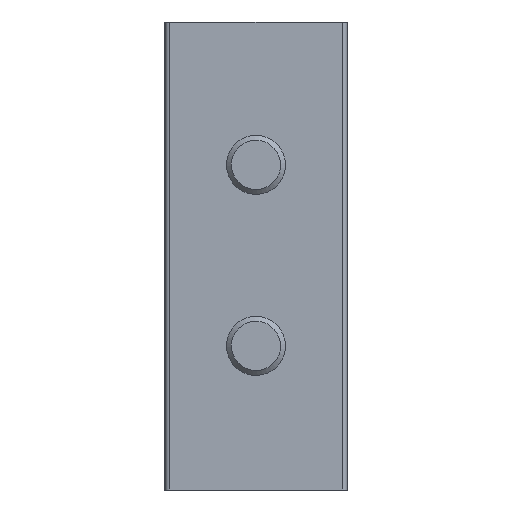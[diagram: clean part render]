
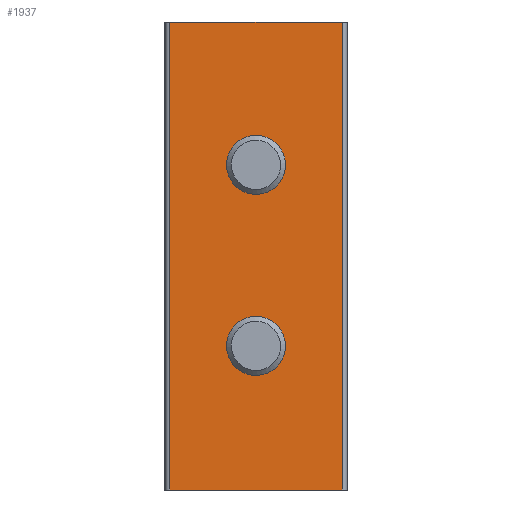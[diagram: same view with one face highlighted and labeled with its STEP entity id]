
A CAD part, front view. The second image highlights one B-rep face of the part: STEP entity #1937.
In plain terms, the highlighted planar face has unit normal (0, -1, 0).
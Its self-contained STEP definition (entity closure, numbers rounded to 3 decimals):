
#15 = CARTESIAN_POINT ( 'NONE',  ( 18.5, 0., 29.25 ) ) ;
#58 = ORIENTED_EDGE ( 'NONE', *, *, #1876, .T. ) ;
#66 = VERTEX_POINT ( 'NONE', #715 ) ;
#110 = DIRECTION ( 'NONE',  ( 1., 0., 0. ) ) ;
#130 = CARTESIAN_POINT ( 'NONE',  ( 37., 0., 0. ) ) ;
#175 = CIRCLE ( 'NONE', #1965, 5.053 ) ;
#183 = EDGE_CURVE ( 'NONE', #740, #66, #709, .T. ) ;
#198 = CARTESIAN_POINT ( 'NONE',  ( 36., 0., 95. ) ) ;
#199 = FACE_OUTER_BOUND ( 'NONE', #1941, .T. ) ;
#219 = CARTESIAN_POINT ( 'NONE',  ( 36., 0., 0. ) ) ;
#223 = VECTOR ( 'NONE', #110, 1000. ) ;
#294 = VECTOR ( 'NONE', #1706, 1000. ) ;
#297 = ORIENTED_EDGE ( 'NONE', *, *, #655, .T. ) ;
#310 = DIRECTION ( 'NONE',  ( 0., 0., 1. ) ) ;
#345 = ORIENTED_EDGE ( 'NONE', *, *, #1424, .T. ) ;
#366 = CARTESIAN_POINT ( 'NONE',  ( 1., 0., 0. ) ) ;
#379 = FACE_BOUND ( 'NONE', #1685, .T. ) ;
#386 = DIRECTION ( 'NONE',  ( 0., 0., -1. ) ) ;
#407 = FACE_BOUND ( 'NONE', #2018, .T. ) ;
#502 = CARTESIAN_POINT ( 'NONE',  ( 1., 0., 0. ) ) ;
#566 = VERTEX_POINT ( 'NONE', #366 ) ;
#635 = DIRECTION ( 'NONE',  ( 0., 1., 0. ) ) ;
#636 = CARTESIAN_POINT ( 'NONE',  ( 37., 0., 0. ) ) ;
#645 = DIRECTION ( 'NONE',  ( 0., 0., -1. ) ) ;
#655 = EDGE_CURVE ( 'NONE', #1236, #740, #973, .T. ) ;
#673 = LINE ( 'NONE', #502, #1326 ) ;
#709 = LINE ( 'NONE', #734, #294 ) ;
#715 = CARTESIAN_POINT ( 'NONE',  ( 1., 0., 95. ) ) ;
#734 = CARTESIAN_POINT ( 'NONE',  ( 37., 0., 95. ) ) ;
#740 = VERTEX_POINT ( 'NONE', #198 ) ;
#758 = ORIENTED_EDGE ( 'NONE', *, *, #1055, .T. ) ;
#830 = PLANE ( 'NONE',  #1700 ) ;
#895 = CARTESIAN_POINT ( 'NONE',  ( 18.5, 0., 66. ) ) ;
#951 = LINE ( 'NONE', #130, #223 ) ;
#973 = LINE ( 'NONE', #219, #1879 ) ;
#1020 = VERTEX_POINT ( 'NONE', #1498 ) ;
#1050 = CIRCLE ( 'NONE', #1741, 5.053 ) ;
#1055 = EDGE_CURVE ( 'NONE', #566, #1236, #951, .T. ) ;
#1069 = VERTEX_POINT ( 'NONE', #1174 ) ;
#1174 = CARTESIAN_POINT ( 'NONE',  ( 18.5, 0., 71.053 ) ) ;
#1230 = EDGE_CURVE ( 'NONE', #1020, #1020, #1050, .T. ) ;
#1236 = VERTEX_POINT ( 'NONE', #1578 ) ;
#1326 = VECTOR ( 'NONE', #645, 1000. ) ;
#1424 = EDGE_CURVE ( 'NONE', #66, #566, #673, .T. ) ;
#1498 = CARTESIAN_POINT ( 'NONE',  ( 18.5, 0., 34.303 ) ) ;
#1547 = DIRECTION ( 'NONE',  ( 0., 0., 1. ) ) ;
#1578 = CARTESIAN_POINT ( 'NONE',  ( 36., 0., 0. ) ) ;
#1685 = EDGE_LOOP ( 'NONE', ( #58 ) ) ;
#1700 = AXIS2_PLACEMENT_3D ( 'NONE', #636, #1919, #386 ) ;
#1706 = DIRECTION ( 'NONE',  ( -1., 0., 0. ) ) ;
#1741 = AXIS2_PLACEMENT_3D ( 'NONE', #15, #635, #1744 ) ;
#1744 = DIRECTION ( 'NONE',  ( 0., 0., 1. ) ) ;
#1778 = ORIENTED_EDGE ( 'NONE', *, *, #1230, .T. ) ;
#1840 = DIRECTION ( 'NONE',  ( 0., 1., 0. ) ) ;
#1844 = ORIENTED_EDGE ( 'NONE', *, *, #183, .T. ) ;
#1876 = EDGE_CURVE ( 'NONE', #1069, #1069, #175, .T. ) ;
#1879 = VECTOR ( 'NONE', #310, 1000. ) ;
#1919 = DIRECTION ( 'NONE',  ( 0., -1., 0. ) ) ;
#1937 = ADVANCED_FACE ( 'NONE', ( #379, #407, #199 ), #830, .T. ) ;
#1941 = EDGE_LOOP ( 'NONE', ( #1844, #345, #758, #297 ) ) ;
#1965 = AXIS2_PLACEMENT_3D ( 'NONE', #895, #1840, #1547 ) ;
#2018 = EDGE_LOOP ( 'NONE', ( #1778 ) ) ;
